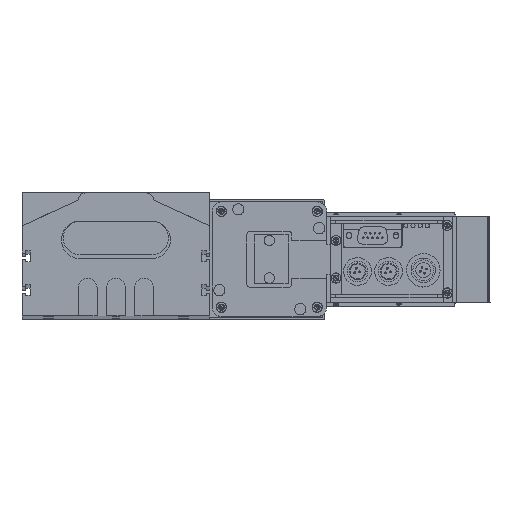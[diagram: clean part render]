
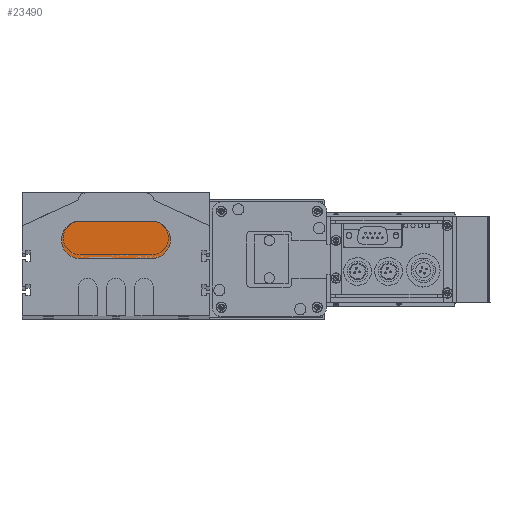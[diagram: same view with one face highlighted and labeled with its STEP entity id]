
A CAD part, top view. The second image highlights one B-rep face of the part: STEP entity #23490.
In plain terms, the highlighted planar face has unit normal (0, 0, 1).
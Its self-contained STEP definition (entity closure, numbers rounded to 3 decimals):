
#5303 = CARTESIAN_POINT ( 'NONE',  ( 38., 0., 10. ) ) ;
#5338 = DIRECTION ( 'NONE',  ( 1., 0., 0. ) ) ;
#5339 = DIRECTION ( 'NONE',  ( 0., 0., 1. ) ) ;
#5340 = AXIS2_PLACEMENT_3D ( 'NONE', #5345, #5339, #5338 ) ;
#5345 = CARTESIAN_POINT ( 'NONE',  ( 0., 10., 10. ) ) ;
#5346 = CIRCLE ( 'NONE', #5340, 10. ) ;
#5358 = CARTESIAN_POINT ( 'NONE',  ( 0., 20., 10. ) ) ;
#5637 = CARTESIAN_POINT ( 'NONE',  ( 0., 0., 10. ) ) ;
#5638 = LINE ( 'NONE', #5637, #5642 ) ;
#5642 = VECTOR ( 'NONE', #5688, 1000. ) ;
#5666 = CIRCLE ( 'NONE', #5729, 10. ) ;
#5687 = CARTESIAN_POINT ( 'NONE',  ( 38., 10., 10. ) ) ;
#5688 = DIRECTION ( 'NONE',  ( 1., 0., 0. ) ) ;
#5717 = CARTESIAN_POINT ( 'NONE',  ( 38., 20., 10. ) ) ;
#5721 = DIRECTION ( 'NONE',  ( -1., 0., 0. ) ) ;
#5722 = DIRECTION ( 'NONE',  ( 0., 0., 1. ) ) ;
#5729 = AXIS2_PLACEMENT_3D ( 'NONE', #5687, #5722, #5721 ) ;
#5792 = LINE ( 'NONE', #5841, #5840 ) ;
#5839 = DIRECTION ( 'NONE',  ( -1., 0., 0. ) ) ;
#5840 = VECTOR ( 'NONE', #5839, 1000. ) ;
#5841 = CARTESIAN_POINT ( 'NONE',  ( 0., 20., 10. ) ) ;
#6865 = CARTESIAN_POINT ( 'NONE',  ( 0., 10., 10. ) ) ;
#6866 = AXIS2_PLACEMENT_3D ( 'NONE', #6865, #6884, #6883 ) ;
#6867 = FACE_OUTER_BOUND ( 'NONE', #22951, .T. ) ;
#6869 = PLANE ( 'NONE',  #6866 ) ;
#6883 = DIRECTION ( 'NONE',  ( 1., 0., 0. ) ) ;
#6884 = DIRECTION ( 'NONE',  ( 0., 0., 1. ) ) ;
#14669 = EDGE_CURVE ( 'NONE', #14874, #14879, #38287, .T. ) ;
#14874 = VERTEX_POINT ( 'NONE', #38654 ) ;
#14879 = VERTEX_POINT ( 'NONE', #38719 ) ;
#22638 = VERTEX_POINT ( 'NONE', #5303 ) ;
#22661 = EDGE_CURVE ( 'NONE', #22695, #14874, #5346, .T. ) ;
#22695 = VERTEX_POINT ( 'NONE', #5358 ) ;
#22863 = EDGE_CURVE ( 'NONE', #14879, #22638, #5638, .T. ) ;
#22875 = EDGE_CURVE ( 'NONE', #22638, #22877, #5666, .T. ) ;
#22877 = VERTEX_POINT ( 'NONE', #5717 ) ;
#22928 = EDGE_CURVE ( 'NONE', #22877, #22695, #5792, .T. ) ;
#22951 = EDGE_LOOP ( 'NONE', ( #22959, #22981, #23181, #23144, #23182 ) ) ;
#22959 = ORIENTED_EDGE ( 'NONE', *, *, #22661, .T. ) ;
#22981 = ORIENTED_EDGE ( 'NONE', *, *, #14669, .T. ) ;
#23144 = ORIENTED_EDGE ( 'NONE', *, *, #22875, .T. ) ;
#23181 = ORIENTED_EDGE ( 'NONE', *, *, #22863, .T. ) ;
#23182 = ORIENTED_EDGE ( 'NONE', *, *, #22928, .T. ) ;
#23490 = ADVANCED_FACE ( 'NONE', ( #6867 ), #6869, .T. ) ;
#38287 = CIRCLE ( 'NONE', #38361, 10. ) ;
#38358 = DIRECTION ( 'NONE',  ( 1., 0., 0. ) ) ;
#38359 = DIRECTION ( 'NONE',  ( 0., 0., 1. ) ) ;
#38360 = CARTESIAN_POINT ( 'NONE',  ( 0., 10., 10. ) ) ;
#38361 = AXIS2_PLACEMENT_3D ( 'NONE', #38360, #38359, #38358 ) ;
#38654 = CARTESIAN_POINT ( 'NONE',  ( -10., 10., 10. ) ) ;
#38719 = CARTESIAN_POINT ( 'NONE',  ( 0., 0., 10. ) ) ;
